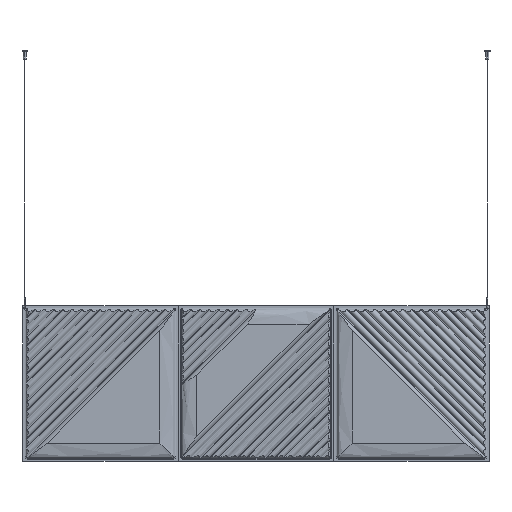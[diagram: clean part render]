
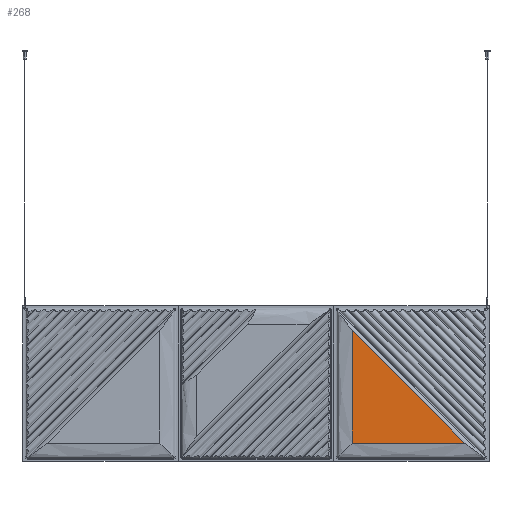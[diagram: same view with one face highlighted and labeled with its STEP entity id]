
A CAD part, front view. The second image highlights one B-rep face of the part: STEP entity #268.
In plain terms, the highlighted planar face has unit normal (0, -1, 0).
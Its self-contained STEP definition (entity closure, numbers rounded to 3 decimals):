
#268=ADVANCED_FACE('',(#784),#7992,.T.);
#784=FACE_OUTER_BOUND('',#1290,.T.);
#1290=EDGE_LOOP('',(#2882,#2883,#2884));
#2882=ORIENTED_EDGE('',*,*,#4743,.T.);
#2883=ORIENTED_EDGE('',*,*,#4781,.T.);
#2884=ORIENTED_EDGE('',*,*,#4736,.T.);
#4736=EDGE_CURVE('',#7124,#7123,#6330,.T.);
#4743=EDGE_CURVE('',#7123,#7130,#6336,.T.);
#4781=EDGE_CURVE('',#7130,#7124,#6373,.T.);
#6330=B_SPLINE_CURVE_WITH_KNOTS('',1,(#18510,#18511),.UNSPECIFIED.,.F.,
 .F.,(2,2),(151.633,585.954),.UNSPECIFIED.);
#6336=B_SPLINE_CURVE_WITH_KNOTS('',1,(#18560,#18561),.UNSPECIFIED.,.F.,
 .F.,(2,2),(129.916,564.237),.UNSPECIFIED.);
#6373=B_SPLINE_CURVE_WITH_KNOTS('',1,(#19234,#19235),.UNSPECIFIED.,.F.,
 .F.,(2,2),(-696.866,-82.643),.UNSPECIFIED.);
#7123=VERTEX_POINT('',#17393);
#7124=VERTEX_POINT('',#17394);
#7130=VERTEX_POINT('',#17400);
#7992=PLANE('',#8261);
#8261=AXIS2_PLACEMENT_3D('',#16376,#8552,$);
#8552=DIRECTION('',(0.,-1.,0.));
#16376=CARTESIAN_POINT('',(3052.274,-734.716,563.915));
#17393=CARTESIAN_POINT('',(3761.214,-734.716,1.259));
#17394=CARTESIAN_POINT('',(3761.214,-734.716,435.58));
#17400=CARTESIAN_POINT('',(4195.535,-734.716,1.259));
#18510=CARTESIAN_POINT('',(3761.214,-734.716,435.58));
#18511=CARTESIAN_POINT('',(3761.214,-734.716,1.259));
#18560=CARTESIAN_POINT('',(3761.214,-734.716,1.259));
#18561=CARTESIAN_POINT('',(4195.535,-734.716,1.259));
#19234=CARTESIAN_POINT('',(4195.535,-734.716,1.259));
#19235=CARTESIAN_POINT('',(3761.214,-734.716,435.58));
